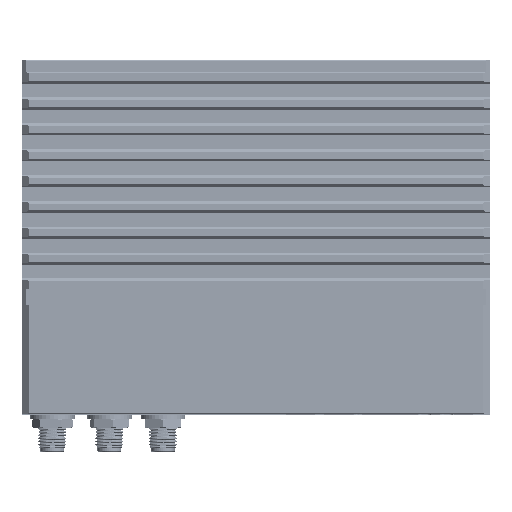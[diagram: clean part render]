
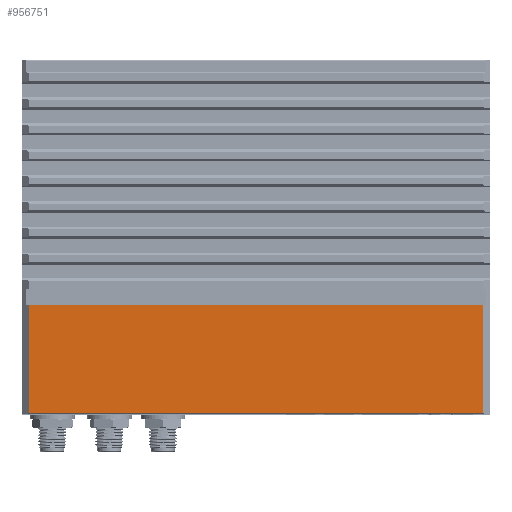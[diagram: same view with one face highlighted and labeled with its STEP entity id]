
A CAD part, top view. The second image highlights one B-rep face of the part: STEP entity #956751.
In plain terms, the highlighted planar face has unit normal (0, 0, 1).
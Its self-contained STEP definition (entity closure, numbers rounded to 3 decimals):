
#16647 = CARTESIAN_POINT ( 'NONE',  ( 97.367, 121.148, 167.486 ) ) ;
#20270 = CARTESIAN_POINT ( 'NONE',  ( -4.633, 121.148, 167.486 ) ) ;
#37717 = CARTESIAN_POINT ( 'NONE',  ( 96.617, 106.748, 167.486 ) ) ;
#45194 = CARTESIAN_POINT ( 'NONE',  ( 97.367, 82.398, 167.486 ) ) ;
#48766 = CARTESIAN_POINT ( 'NONE',  ( 97.367, 82.398, 167.486 ) ) ;
#56371 = CARTESIAN_POINT ( 'NONE',  ( -3.883, 121.148, 167.486 ) ) ;
#77236 = ORIENTED_EDGE ( 'NONE', *, *, #230375, .T. ) ;
#115643 = EDGE_CURVE ( 'NONE', #436988, #525694, #920393, .T. ) ;
#140355 = LINE ( 'NONE', #48766, #237472 ) ;
#230375 = EDGE_CURVE ( 'NONE', #599325, #572059, #140355, .T. ) ;
#237472 = VECTOR ( 'NONE', #576549, 1000. ) ;
#313741 = PLANE ( 'NONE',  #544696 ) ;
#324704 = CARTESIAN_POINT ( 'NONE',  ( -4.633, 106.748, 167.486 ) ) ;
#333252 = DIRECTION ( 'NONE',  ( -1., 0., 0. ) ) ;
#342292 = DIRECTION ( 'NONE',  ( 0., -1., 0. ) ) ;
#411230 = LINE ( 'NONE', #20270, #800117 ) ;
#436988 = VERTEX_POINT ( 'NONE', #894385 ) ;
#465989 = ORIENTED_EDGE ( 'NONE', *, *, #791684, .T. ) ;
#512226 = VECTOR ( 'NONE', #333252, 1000. ) ;
#517745 = EDGE_CURVE ( 'NONE', #525694, #599325, #411230, .T. ) ;
#525694 = VERTEX_POINT ( 'NONE', #324704 ) ;
#539880 = LINE ( 'NONE', #16647, #621845 ) ;
#544696 = AXIS2_PLACEMENT_3D ( 'NONE', #56371, #647659, #342292 ) ;
#550929 = FACE_OUTER_BOUND ( 'NONE', #617788, .T. ) ;
#572059 = VERTEX_POINT ( 'NONE', #45194 ) ;
#576549 = DIRECTION ( 'NONE',  ( 1., 0., 0. ) ) ;
#599325 = VERTEX_POINT ( 'NONE', #945790 ) ;
#617788 = EDGE_LOOP ( 'NONE', ( #890866, #77236, #465989, #841118 ) ) ;
#621845 = VECTOR ( 'NONE', #840833, 1000. ) ;
#647659 = DIRECTION ( 'NONE',  ( 0., 0., 1. ) ) ;
#791684 = EDGE_CURVE ( 'NONE', #572059, #436988, #539880, .T. ) ;
#800117 = VECTOR ( 'NONE', #925682, 1000. ) ;
#840833 = DIRECTION ( 'NONE',  ( 0., 1., 0. ) ) ;
#841118 = ORIENTED_EDGE ( 'NONE', *, *, #115643, .T. ) ;
#890866 = ORIENTED_EDGE ( 'NONE', *, *, #517745, .T. ) ;
#894385 = CARTESIAN_POINT ( 'NONE',  ( 97.367, 106.748, 167.486 ) ) ;
#920393 = LINE ( 'NONE', #37717, #512226 ) ;
#925682 = DIRECTION ( 'NONE',  ( 0., -1., 0. ) ) ;
#945790 = CARTESIAN_POINT ( 'NONE',  ( -4.633, 82.398, 167.486 ) ) ;
#956751 = ADVANCED_FACE ( 'NONE', ( #550929 ), #313741, .T. ) ;
